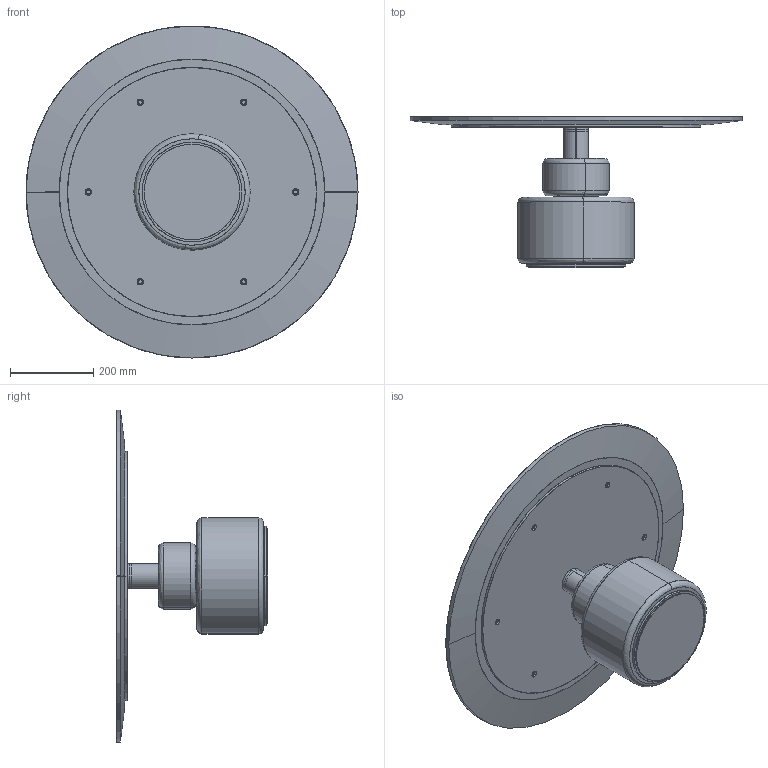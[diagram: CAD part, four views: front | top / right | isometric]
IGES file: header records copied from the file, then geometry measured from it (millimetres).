
Start section: SolidWorks IGES file using analytic representation for surfaces
Global section: file name: C:\Users\SoldaClaudio\Desktop\MENHIR\3D\004224.IGS; native system: SolidWorks 2019; preprocessor: SolidWorks 2019; author: SoldaClaudio; date: 201218.105037; units: millimetre
Bounding box: 800 x 365 x 800 mm (x, y, z)
Surface area: 2353451 mm2 (no closed solid volume)
Topology: 0 solids, 0 shells, 466 faces, 7556 edges, 7556 vertices
Faces by surface type: bspline 324, revolution 142
